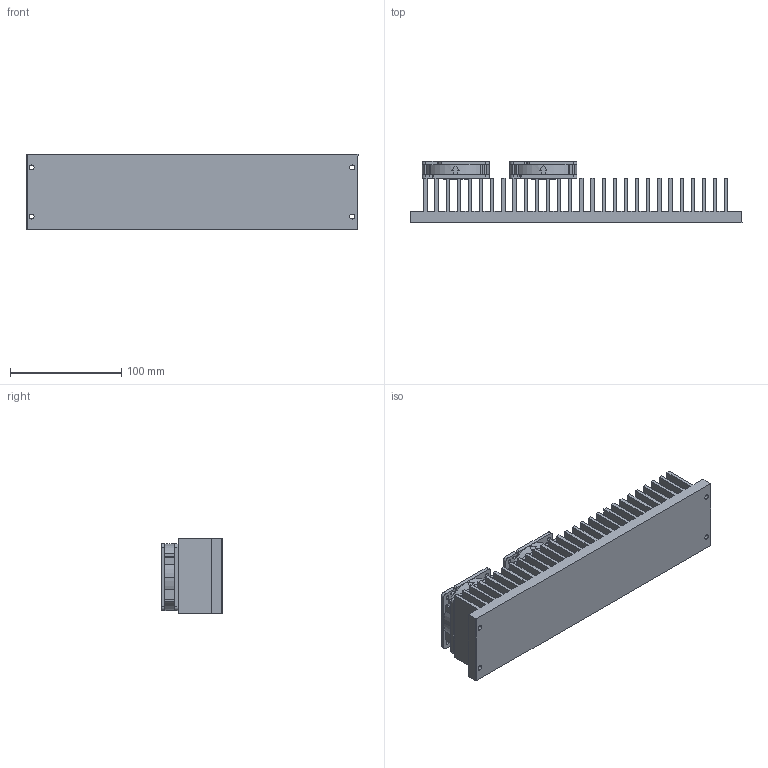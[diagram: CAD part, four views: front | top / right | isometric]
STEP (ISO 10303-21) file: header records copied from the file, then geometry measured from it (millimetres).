
FILE_DESCRIPTION(('STEP AP214'),'1');
FILE_NAME('Dissipatore per gd25-35XS.stp','2018-09-05T13:12:49',(' '),(' '),'Spatial InterOp 3D',' ',' ');
FILE_SCHEMA(('automotive_design'));
Length unit declared in the file: metre
Products named in the file (3): Dissipatore per gd25-35XS; Dissipatore; ventola 1
Assembly tree (3 placements, depth 2):
  Dissipatore per gd25-35XS
    Dissipatore
    ventola 1  x2
Bounding box: 298 x 55 x 68 mm (x, y, z)
Volume: 407207.4 mm3; surface area: 202481.3 mm2
Topology: 3 solids, 3 shells, 496 faces, 1452 edges, 962 vertices
Faces by surface type: plane 276, cylinder 142, bspline 70, torus 4, cone 4
Entity records: 15238 total; most frequent: CARTESIAN_POINT 4467, ORIENTED_EDGE 1826, DIRECTION 1536, EDGE_CURVE 913, LINE 620, VECTOR 620, VERTEX_POINT 607, AXIS2_PLACEMENT_3D 458
